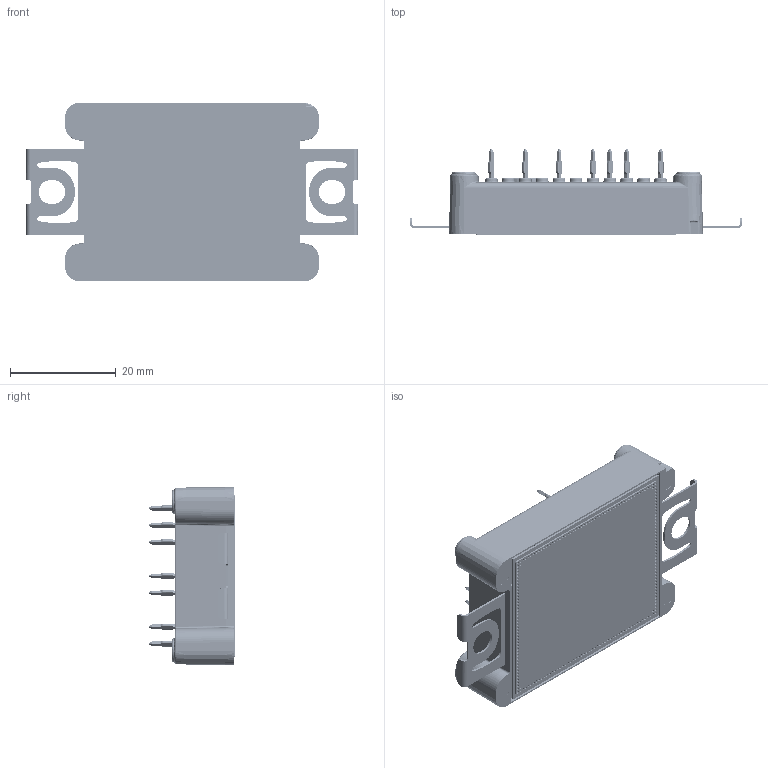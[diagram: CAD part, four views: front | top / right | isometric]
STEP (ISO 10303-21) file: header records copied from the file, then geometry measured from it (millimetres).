
FILE_DESCRIPTION (( 'STEP AP214' ), '1' );
FILE_NAME ('CAB016M12FM3T (2026-6-6).STEP', '2026-06-06T05:28:08', ( '' ), ( '' ), 'SwSTEP 2.0', 'SolidWorks 2025', '' );
FILE_SCHEMA (( 'AUTOMOTIVE_DESIGN' ));
Length unit declared in the file: millimetre
Products named in the file (1): CAB016M12FM3T (2026-6-6)
Bounding box: 62.8 x 16.4 x 33.8 mm (x, y, z)
Volume: 13474 mm3; surface area: 11048.6 mm2
Topology: 19 solids, 19 shells, 3455 faces, 8377 edges, 5231 vertices
Faces by surface type: cylinder 1232, plane 970, bspline 627, cone 626
Entity records: 130083 total; most frequent: CARTESIAN_POINT 55412, ORIENTED_EDGE 16746, DIRECTION 13611, EDGE_CURVE 8373, VERTEX_POINT 5231, AXIS2_PLACEMENT_3D 5181, EDGE_LOOP 3888, ADVANCED_FACE 3455
